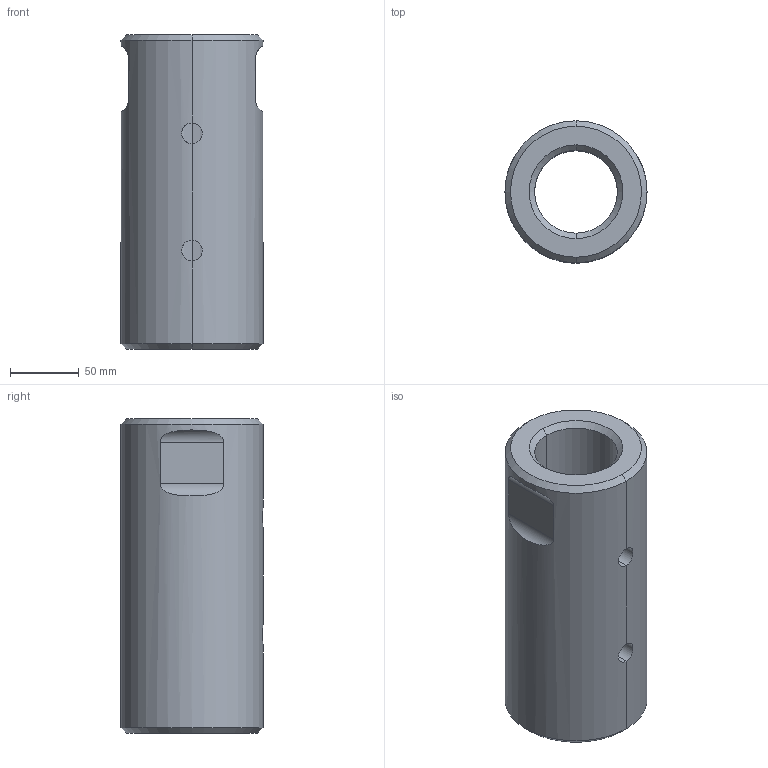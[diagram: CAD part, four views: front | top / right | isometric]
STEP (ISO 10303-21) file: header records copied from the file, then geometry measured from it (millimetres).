
FILE_DESCRIPTION (( 'STEP AP203' ), '1' );
FILE_NAME ('Spannschloss M64.STEP', '2018-02-22T10:03:20', ( 'install' ), ( 'Hewlett-Packard Company' ), 'SwSTEP 2.0', 'SolidWorks 2017', '' );
FILE_SCHEMA (( 'CONFIG_CONTROL_DESIGN' ));
Length unit declared in the file: millimetre
Products named in the file (1): Spannschloss M64
Bounding box: 103 x 103 x 228 mm (x, y, z)
Volume: 1166724.2 mm3; surface area: 129571.9 mm2
Topology: 1 solids, 1 shells, 30 faces, 66 edges, 38 vertices
Faces by surface type: cylinder 16, cone 8, plane 6
Entity records: 1467 total; most frequent: CARTESIAN_POINT 727, DIRECTION 140, ORIENTED_EDGE 132, EDGE_CURVE 66, AXIS2_PLACEMENT_3D 55, VERTEX_POINT 38, EDGE_LOOP 36, VECTOR 30
